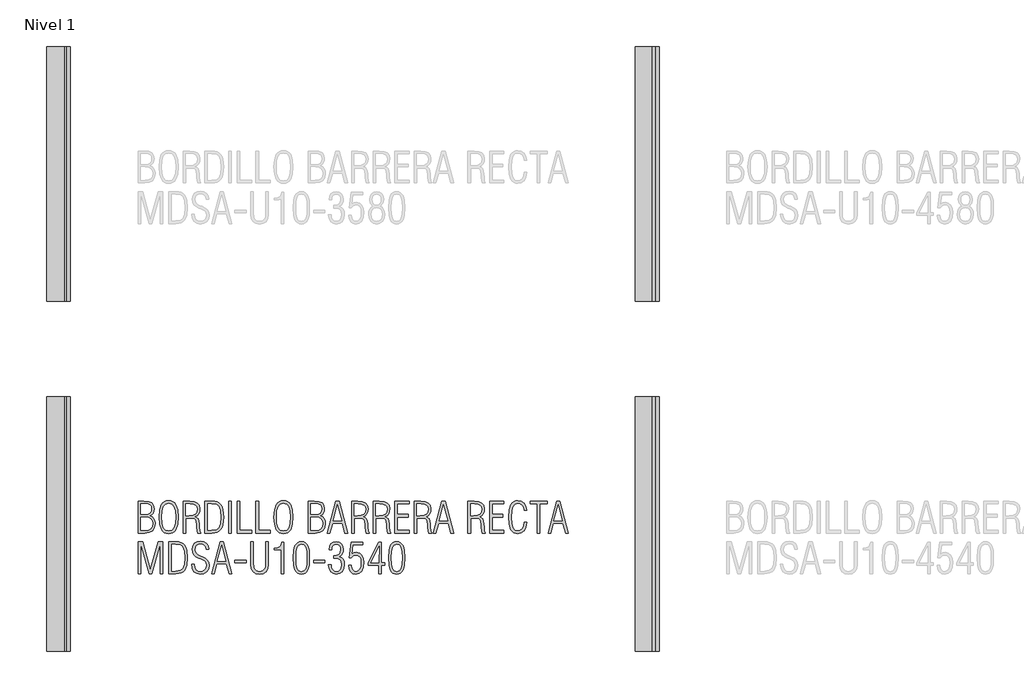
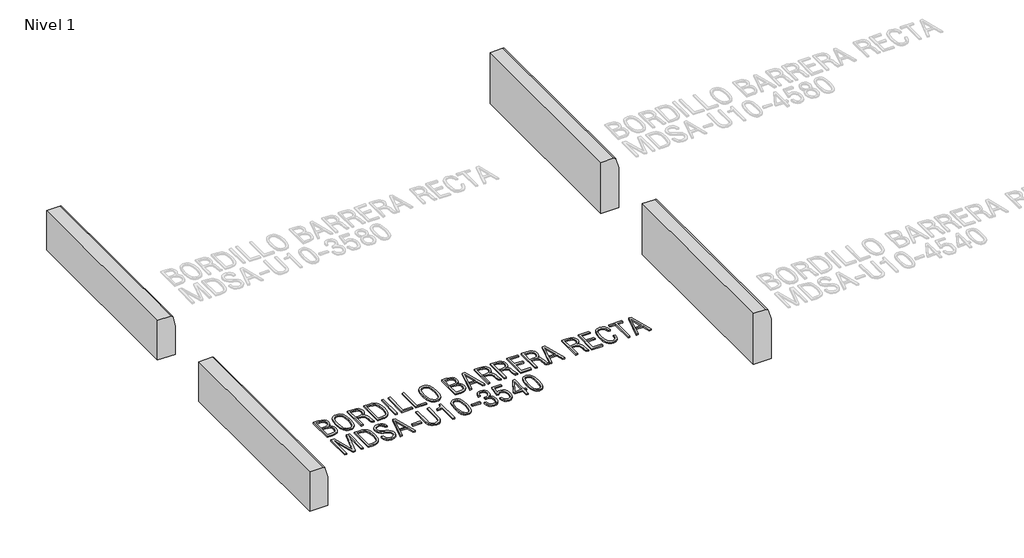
# One storey, part 1 of 4: 4 railings, 1 proxy.
"""IFC4 building model written with IfcOpenShell, lengths in millimetres."""

from ifc_helpers import new_model, si_unit, origin, origin_with_axes, place, context, project, spatial, polyline, outline, extrude, transform, mapped, element, save
from components import railing_0f209ece, railing_1f8f8446, railing_46bd7357, railing_d3ae6c80

model = new_model("IFC4")

# Units and contexts
model_context = context("Model", 3, world=origin())
ifc_project = project(units=[si_unit("LENGTHUNIT", "METRE", prefix="MILLI")], contexts=[model_context])

# Site, building, storey
site = spatial("IfcSite", under=ifc_project)
building = spatial("IfcBuilding", under=site)
storey = spatial("IfcBuildingStorey", under=building, Name="Nivel 1", Elevation=0.0)

# Proxy
placement = place(None, origin())
element("IfcBuildingElementProxy", 1, Name="200mm", ObjectType="200mm", at=placement, inside=storey, context=model_context, shape_type="SweptSolid", body=[
    extrude(outline(polyline([(-3968.5349981, 2081.6050587), (-3968.5349981, 2282.0976811), (-3932.7110895, 2282.0976811), (-3902.9946773, 2279.3249915), (-3883.1689986, 2271.0069224), (-3872.0087648, 2256.4234589), (-3868.2886868, 2234.8545859), (-3869.8739832, 2219.5826869), (-3874.6298723, 2207.3171667), (-3882.6447771, 2197.8559158), (-3894.0071205, 2190.9968247), (-3879.5941869, 2182.7924423), (-3869.6023986, 2172.1248503), (-3863.7664868, 2158.5266706), (-3861.8211829, 2141.530525), (-3865.7307385, 2114.9025985), (-3877.4594053, 2096.2579973), (-3897.360875, 2085.2682933), (-3925.7888391, 2081.6050587), (-3968.5349981, 2081.6050587)]), holes=[polyline([(-3952.3662382, 2097.7738185), (-3927.9615162, 2097.7738185), (-3904.9778767, 2100.3317669), (-3889.5859752, 2108.0056119), (-3880.8889509, 2121.5153687), (-3877.9899427, 2141.5810523), (-3880.9394782, 2159.5624818), (-3889.7880847, 2172.0743229), (-3904.8894538, 2179.4071082), (-3926.5972771, 2181.8513699), (-3952.3662382, 2181.8513699), (-3952.3662382, 2097.7738185)]), polyline([(-3952.3662382, 2198.0201298), (-3927.4057151, 2198.0201298), (-3907.9842555, 2200.1549114), (-3894.68924, 2206.5592561), (-3887.015395, 2217.6247511), (-3884.4574467, 2233.7429836), (-3887.015395, 2248.7243502), (-3894.68924, 2258.6024519), (-3908.6284795, 2264.0973039), (-3929.9826112, 2265.9289213), (-3952.3662382, 2265.9289213), (-3952.3662382, 2198.0201298)])]), origin_with_axes(), (0.0, 0.0, 1.0), 10.0),
    extrude(outline(polyline([(-3835.9511671, 2182.0534794), (-3832.3321438, 2228.2797113), (-3821.4750742, 2260.3456464), (-3813.2154275, 2271.2769281), (-3802.91258, 2279.0849864), (-3790.5665318, 2283.7698214), (-3776.1772829, 2285.3314331), (-3761.7438225, 2283.7745584), (-3749.3661947, 2279.1039342), (-3739.0443995, 2271.3195605), (-3730.7784368, 2260.4214374), (-3719.9213672, 2228.3744501), (-3716.302344, 2182.0534794), (-3719.9403149, 2135.6819813), (-3730.8542278, 2103.4834119), (-3739.1438752, 2092.4968658), (-3749.4609335, 2084.649333), (-3761.8054028, 2079.9408133), (-3776.1772829, 2078.3713067), (-3790.5049515, 2079.9408133), (-3802.8178411, 2084.649333), (-3813.1159517, 2092.4968658), (-3821.3992832, 2103.4834119), (-3832.3131961, 2135.6819813), (-3835.9511671, 2182.0534794)]), holes=[polyline([(-3819.7824072, 2181.8513699), (-3817.1107722, 2143.0842417), (-3809.0958674, 2115.913146), (-3795.4976877, 2099.8833364), (-3776.0762281, 2094.5400666), (-3756.6358207, 2099.8517568), (-3743.0818525, 2115.7868276), (-3735.123791, 2142.9263437), (-3732.4711038, 2181.8513699), (-3735.123791, 2220.7763961), (-3743.0818525, 2247.9159122), (-3756.6358207, 2263.850983), (-3776.0762281, 2269.1626732), (-3795.4976877, 2263.8194034), (-3809.0958674, 2247.7895938), (-3817.1107722, 2220.6184981), (-3819.7824072, 2181.8513699)])]), origin_with_axes(), (0.0, 0.0, 1.0), 10.0),
    extrude(outline(polyline([(-3683.9648242, 2081.6050587), (-3683.9648242, 2282.0976811), (-3644.9071636, 2282.0976811), (-3616.0434009, 2279.0913024), (-3596.0471924, 2270.072166), (-3584.3753688, 2254.6992123), (-3580.484761, 2232.6313814), (-3582.3542738, 2215.4141785), (-3587.9628124, 2201.7591555), (-3597.449327, 2191.4263074), (-3610.9527679, 2184.1756291), (-3599.1609418, 2178.7881478), (-3591.1713007, 2170.609029), (-3586.2638294, 2158.0466605), (-3583.7185129, 2139.50943), (-3582.9606023, 2121.7237941), (-3580.1689649, 2095.7527235), (-3574.017257, 2081.6050587), (-3592.6113309, 2081.6050587), (-3596.880894, 2093.7442604), (-3599.1798896, 2118.5405695), (-3599.8872728, 2131.8797964), (-3602.7610173, 2154.212896), (-3608.6537723, 2167.1479039), (-3619.0560956, 2173.3248754), (-3635.4585446, 2175.3838659), (-3667.7960643, 2175.3838659), (-3667.7960643, 2081.6050587), (-3683.9648242, 2081.6050587)]), holes=[polyline([(-3667.7960643, 2191.5526258), (-3650.1620106, 2191.5526258), (-3625.3151741, 2193.8074099), (-3608.8811455, 2200.5717622), (-3599.710427, 2212.5025385), (-3596.6535209, 2230.2565948), (-3599.5588449, 2246.3685114), (-3608.274817, 2257.4150586), (-3623.3698702, 2263.8004556), (-3645.4124374, 2265.9289213), (-3667.7960643, 2265.9289213), (-3667.7960643, 2191.5526258)])]), origin_with_axes(), (0.0, 0.0, 1.0), 10.0),
    extrude(outline(polyline([(-3548.1472412, 2081.6050587), (-3548.1472412, 2282.0976811), (-3506.3611024, 2282.0976811), (-3487.3201771, 2280.7018624), (-3471.326684, 2276.5144063), (-3458.3806233, 2269.5353126), (-3448.4819948, 2259.7645816), (-3441.1539465, 2246.5295674), (-3435.9196263, 2229.1576244), (-3431.7321701, 2182.002952), (-3435.938574, 2134.8735433), (-3441.1965789, 2117.4573889), (-3448.5577858, 2104.1402677), (-3458.480099, 2094.2811138), (-3471.4214229, 2087.2388609), (-3487.3817573, 2083.0135092), (-3506.3611024, 2081.6050587), (-3548.1472412, 2081.6050587)]), holes=[polyline([(-3531.9784813, 2097.7738185), (-3507.4727046, 2097.7738185), (-3478.6468374, 2102.100225), (-3468.2697779, 2107.508233), (-3460.583301, 2115.0794443), (-3451.0715227, 2140.3620794), (-3447.90093, 2181.598733), (-3451.0715227, 2223.1511827), (-3460.583301, 2248.5727681), (-3468.2697779, 2256.1660851), (-3478.6468374, 2261.589883), (-3507.4727046, 2265.9289213), (-3531.9784813, 2265.9289213), (-3531.9784813, 2097.7738185)])]), origin_with_axes(), (0.0, 0.0, 1.0), 10.0),
    extrude(outline(polyline([(-3399.3946503, 2081.6050587), (-3399.3946503, 2282.0976811), (-3383.2258905, 2282.0976811), (-3383.2258905, 2081.6050587), (-3399.3946503, 2081.6050587)])), origin_with_axes(), (0.0, 0.0, 1.0), 10.0),
    extrude(outline(polyline([(-3344.4208667, 2081.6050587), (-3344.4208667, 2282.0976811), (-3328.2521069, 2282.0976811), (-3328.2521069, 2097.7738185), (-3253.8758114, 2097.7738185), (-3253.8758114, 2081.6050587), (-3344.4208667, 2081.6050587)])), origin_with_axes(), (0.0, 0.0, 1.0), 10.0),
    extrude(outline(polyline([(-3228.0057956, 2081.6050587), (-3228.0057956, 2282.0976811), (-3211.8370357, 2282.0976811), (-3211.8370357, 2097.7738185), (-3137.4607403, 2097.7738185), (-3137.4607403, 2081.6050587), (-3228.0057956, 2081.6050587)])), origin_with_axes(), (0.0, 0.0, 1.0), 10.0),
    extrude(outline(polyline([(-3114.8244765, 2182.0534794), (-3111.2054533, 2228.2797113), (-3100.3483836, 2260.3456464), (-3092.0887369, 2271.2769281), (-3081.7858894, 2279.0849864), (-3069.4398412, 2283.7698214), (-3055.0505923, 2285.3314331), (-3040.6171319, 2283.7745584), (-3028.2395041, 2279.1039342), (-3017.9177089, 2271.3195605), (-3009.6517462, 2260.4214374), (-2998.7946766, 2228.3744501), (-2995.1756534, 2182.0534794), (-2998.8136243, 2135.6819813), (-3009.7275373, 2103.4834119), (-3018.0171847, 2092.4968658), (-3028.334243, 2084.649333), (-3040.6787122, 2079.9408133), (-3055.0505923, 2078.3713067), (-3069.378261, 2079.9408133), (-3081.6911506, 2084.649333), (-3091.9892611, 2092.4968658), (-3100.2725926, 2103.4834119), (-3111.1865055, 2135.6819813), (-3114.8244765, 2182.0534794)]), holes=[polyline([(-3098.6557166, 2181.8513699), (-3095.9840817, 2143.0842417), (-3087.9691769, 2115.913146), (-3074.3709972, 2099.8833364), (-3054.9495375, 2094.5400666), (-3035.5091302, 2099.8517568), (-3021.9551619, 2115.7868276), (-3013.9971004, 2142.9263437), (-3011.3444133, 2181.8513699), (-3013.9971004, 2220.7763961), (-3021.9551619, 2247.9159122), (-3035.5091302, 2263.850983), (-3054.9495375, 2269.1626732), (-3074.3709972, 2263.8194034), (-3087.9691769, 2247.7895938), (-3095.9840817, 2220.6184981), (-3098.6557166, 2181.8513699)])]), origin_with_axes(), (0.0, 0.0, 1.0), 10.0),
    extrude(outline(polyline([(-2898.1630941, 2081.6050587), (-2898.1630941, 2282.0976811), (-2862.3391855, 2282.0976811), (-2832.6227733, 2279.3249915), (-2812.7970947, 2271.0069224), (-2801.6368608, 2256.4234589), (-2797.9167829, 2234.8545859), (-2799.5020792, 2219.5826869), (-2804.2579684, 2207.3171667), (-2812.2728732, 2197.8559158), (-2823.6352165, 2190.9968247), (-2809.2222829, 2182.7924423), (-2799.2304946, 2172.1248503), (-2793.3945828, 2158.5266706), (-2791.4492789, 2141.530525), (-2795.3588345, 2114.9025985), (-2807.0875013, 2096.2579973), (-2826.988971, 2085.2682933), (-2855.4169352, 2081.6050587), (-2898.1630941, 2081.6050587)]), holes=[polyline([(-2881.9943342, 2198.0201298), (-2857.0338112, 2198.0201298), (-2837.6123515, 2200.1549114), (-2824.3173361, 2206.5592561), (-2816.6434911, 2217.6247511), (-2814.0855427, 2233.7429836), (-2816.6434911, 2248.7243502), (-2824.3173361, 2258.6024519), (-2838.2565756, 2264.0973039), (-2859.6107073, 2265.9289213), (-2881.9943342, 2265.9289213), (-2881.9943342, 2198.0201298)]), polyline([(-2881.9943342, 2097.7738185), (-2857.5896123, 2097.7738185), (-2834.6059728, 2100.3317669), (-2819.2140713, 2108.0056119), (-2810.5170469, 2121.5153687), (-2807.6180388, 2141.5810523), (-2810.5675743, 2159.5624818), (-2819.4161808, 2172.0743229), (-2834.5175498, 2179.4071082), (-2856.2253732, 2181.8513699), (-2881.9943342, 2181.8513699), (-2881.9943342, 2097.7738185)])]), origin_with_axes(), (0.0, 0.0, 1.0), 10.0),
    extrude(outline(polyline([(-2778.514271, 2081.6050587), (-2724.9552539, 2282.0976811), (-2705.4011599, 2282.0976811), (-2652.3979439, 2081.6050587), (-2669.2235597, 2081.6050587), (-2685.9986481, 2143.0463462), (-2745.9241144, 2143.0463462), (-2763.002367, 2081.6050587), (-2778.514271, 2081.6050587)]), holes=[polyline([(-2743.0945814, 2159.2151061), (-2689.3839822, 2159.2151061), (-2716.1129633, 2259.9161637), (-2743.0945814, 2159.2151061)])]), origin_with_axes(), (0.0, 0.0, 1.0), 10.0),
    extrude(outline(polyline([(-2626.5279281, 2081.6050587), (-2626.5279281, 2282.0976811), (-2587.4702676, 2282.0976811), (-2558.6065048, 2279.0913024), (-2538.6102963, 2270.072166), (-2526.9384728, 2254.6992123), (-2523.0478649, 2232.6313814), (-2524.9173778, 2215.4141785), (-2530.5259164, 2201.7591555), (-2540.0124309, 2191.4263074), (-2553.5158718, 2184.1756291), (-2541.7240458, 2178.7881478), (-2533.7344047, 2170.609029), (-2528.8269334, 2158.0466605), (-2526.2816169, 2139.50943), (-2525.5237063, 2121.7237941), (-2522.7320688, 2095.7527235), (-2516.580361, 2081.6050587), (-2535.1744348, 2081.6050587), (-2539.443998, 2093.7442604), (-2541.7429935, 2118.5405695), (-2542.4503768, 2131.8797964), (-2545.3241212, 2154.212896), (-2551.2168763, 2167.1479039), (-2561.6191995, 2173.3248754), (-2578.0216485, 2175.3838659), (-2610.3591683, 2175.3838659), (-2610.3591683, 2081.6050587), (-2626.5279281, 2081.6050587)]), holes=[polyline([(-2610.3591683, 2191.5526258), (-2592.7251145, 2191.5526258), (-2567.8782781, 2193.8074099), (-2551.4442495, 2200.5717622), (-2542.273531, 2212.5025385), (-2539.2166248, 2230.2565948), (-2542.1219488, 2246.3685114), (-2550.837921, 2257.4150586), (-2565.9329741, 2263.8004556), (-2587.9755413, 2265.9289213), (-2610.3591683, 2265.9289213), (-2610.3591683, 2191.5526258)])]), origin_with_axes(), (0.0, 0.0, 1.0), 10.0),
    extrude(outline(polyline([(-2490.7103452, 2081.6050587), (-2490.7103452, 2282.0976811), (-2451.6526846, 2282.0976811), (-2422.7889218, 2279.0913024), (-2402.7927133, 2270.072166), (-2391.1208898, 2254.6992123), (-2387.2302819, 2232.6313814), (-2389.0997948, 2215.4141785), (-2394.7083334, 2201.7591555), (-2404.194848, 2191.4263074), (-2417.6982888, 2184.1756291), (-2405.9064628, 2178.7881478), (-2397.9168217, 2170.609029), (-2393.0093504, 2158.0466605), (-2390.4640339, 2139.50943), (-2389.7061233, 2121.7237941), (-2386.9144859, 2095.7527235), (-2380.762778, 2081.6050587), (-2399.3568519, 2081.6050587), (-2403.626415, 2093.7442604), (-2405.9254106, 2118.5405695), (-2406.6327938, 2131.8797964), (-2409.5065382, 2154.212896), (-2415.3992933, 2167.1479039), (-2425.8016165, 2173.3248754), (-2442.2040655, 2175.3838659), (-2474.5415853, 2175.3838659), (-2474.5415853, 2081.6050587), (-2490.7103452, 2081.6050587)]), holes=[polyline([(-2474.5415853, 2191.5526258), (-2456.9075315, 2191.5526258), (-2432.0606951, 2193.8074099), (-2415.6266665, 2200.5717622), (-2406.455948, 2212.5025385), (-2403.3990418, 2230.2565948), (-2406.3043659, 2246.3685114), (-2415.020338, 2257.4150586), (-2430.1153912, 2263.8004556), (-2452.1579583, 2265.9289213), (-2474.5415853, 2265.9289213), (-2474.5415853, 2191.5526258)])]), origin_with_axes(), (0.0, 0.0, 1.0), 10.0),
    extrude(outline(polyline([(-2354.8927622, 2081.6050587), (-2354.8927622, 2282.0976811), (-2264.3477069, 2282.0976811), (-2264.3477069, 2265.9289213), (-2338.7240023, 2265.9289213), (-2338.7240023, 2198.0201298), (-2270.8152108, 2198.0201298), (-2270.8152108, 2181.8513699), (-2338.7240023, 2181.8513699), (-2338.7240023, 2097.7738185), (-2264.3477069, 2097.7738185), (-2264.3477069, 2081.6050587), (-2354.8927622, 2081.6050587)])), origin_with_axes(), (0.0, 0.0, 1.0), 10.0),
    extrude(outline(polyline([(-2232.0101871, 2081.6050587), (-2232.0101871, 2282.0976811), (-2192.9525265, 2282.0976811), (-2164.0887638, 2279.0913024), (-2144.0925553, 2270.072166), (-2132.4207317, 2254.6992123), (-2128.5301239, 2232.6313814), (-2130.3996367, 2215.4141785), (-2136.0081753, 2201.7591555), (-2145.4946899, 2191.4263074), (-2158.9981308, 2184.1756291), (-2147.2063047, 2178.7881478), (-2139.2166636, 2170.609029), (-2134.3091924, 2158.0466605), (-2131.7638759, 2139.50943), (-2131.0059652, 2121.7237941), (-2128.2143278, 2095.7527235), (-2122.0626199, 2081.6050587), (-2140.6566938, 2081.6050587), (-2144.926257, 2093.7442604), (-2147.2252525, 2118.5405695), (-2147.9326357, 2131.8797964), (-2150.8063802, 2154.212896), (-2156.6991352, 2167.1479039), (-2167.1014585, 2173.3248754), (-2183.5039075, 2175.3838659), (-2215.8414272, 2175.3838659), (-2215.8414272, 2081.6050587), (-2232.0101871, 2081.6050587)]), holes=[polyline([(-2215.8414272, 2191.5526258), (-2198.2073735, 2191.5526258), (-2173.360537, 2193.8074099), (-2156.9265084, 2200.5717622), (-2147.7557899, 2212.5025385), (-2144.6988838, 2230.2565948), (-2147.6042078, 2246.3685114), (-2156.3201799, 2257.4150586), (-2171.4152331, 2263.8004556), (-2193.4578003, 2265.9289213), (-2215.8414272, 2265.9289213), (-2215.8414272, 2191.5526258)])]), origin_with_axes(), (0.0, 0.0, 1.0), 10.0),
    extrude(outline(polyline([(-2112.361364, 2081.6050587), (-2058.8023469, 2282.0976811), (-2039.2482529, 2282.0976811), (-1986.245037, 2081.6050587), (-2003.0706527, 2081.6050587), (-2019.8457411, 2143.0463462), (-2079.7712074, 2143.0463462), (-2096.84946, 2081.6050587), (-2112.361364, 2081.6050587)]), holes=[polyline([(-2076.9416744, 2159.2151061), (-2023.2310752, 2159.2151061), (-2049.9600564, 2259.9161637), (-2076.9416744, 2159.2151061)])]), origin_with_axes(), (0.0, 0.0, 1.0), 10.0),
    extrude(outline(polyline([(-1895.6999816, 2081.6050587), (-1895.6999816, 2282.0976811), (-1856.6423211, 2282.0976811), (-1827.7785583, 2279.0913024), (-1807.7823498, 2270.072166), (-1796.1105263, 2254.6992123), (-1792.2199184, 2232.6313814), (-1794.0894313, 2215.4141785), (-1799.6979699, 2201.7591555), (-1809.1844844, 2191.4263074), (-1822.6879253, 2184.1756291), (-1810.8960993, 2178.7881478), (-1802.9064581, 2170.609029), (-1797.9989869, 2158.0466605), (-1795.4536704, 2139.50943), (-1794.6957598, 2121.7237941), (-1791.9041223, 2095.7527235), (-1785.7524145, 2081.6050587), (-1804.3464883, 2081.6050587), (-1808.6160515, 2093.7442604), (-1810.915047, 2118.5405695), (-1811.6224303, 2131.8797964), (-1814.4961747, 2154.212896), (-1820.3889298, 2167.1479039), (-1830.791253, 2173.3248754), (-1847.193702, 2175.3838659), (-1879.5312218, 2175.3838659), (-1879.5312218, 2081.6050587), (-1895.6999816, 2081.6050587)]), holes=[polyline([(-1879.5312218, 2191.5526258), (-1861.897168, 2191.5526258), (-1837.0503315, 2193.8074099), (-1820.616303, 2200.5717622), (-1811.4455845, 2212.5025385), (-1808.3886783, 2230.2565948), (-1811.2940023, 2246.3685114), (-1820.0099745, 2257.4150586), (-1835.1050276, 2263.8004556), (-1857.1475948, 2265.9289213), (-1879.5312218, 2265.9289213), (-1879.5312218, 2191.5526258)])]), origin_with_axes(), (0.0, 0.0, 1.0), 10.0),
    extrude(outline(polyline([(-1759.8823987, 2081.6050587), (-1759.8823987, 2282.0976811), (-1669.3373433, 2282.0976811), (-1669.3373433, 2265.9289213), (-1743.7136388, 2265.9289213), (-1743.7136388, 2198.0201298), (-1675.8048473, 2198.0201298), (-1675.8048473, 2181.8513699), (-1743.7136388, 2181.8513699), (-1743.7136388, 2097.7738185), (-1669.3373433, 2097.7738185), (-1669.3373433, 2081.6050587), (-1759.8823987, 2081.6050587)])), origin_with_axes(), (0.0, 0.0, 1.0), 10.0),
    extrude(outline(polyline([(-1525.7385447, 2149.5138501), (-1531.0376031, 2118.6732039), (-1542.2862599, 2096.3843157), (-1559.2824055, 2082.8745589), (-1581.8239305, 2078.3713067), (-1595.8831725, 2079.9408133), (-1607.9465832, 2084.649333), (-1618.0141626, 2092.4968658), (-1626.0859107, 2103.4834119), (-1636.6966593, 2135.6819813), (-1640.2335756, 2182.0534794), (-1636.6966593, 2228.2797113), (-1626.0859107, 2260.3456464), (-1618.0141626, 2271.2769281), (-1607.9465832, 2279.0849864), (-1595.8831725, 2283.7698214), (-1581.8239305, 2285.3314331), (-1559.3960921, 2281.2639795), (-1542.2357325, 2269.0616185), (-1531.1765534, 2249.633843), (-1527.0522564, 2223.8901456), (-1543.2210163, 2223.7385635), (-1546.5431912, 2242.9326499), (-1554.3875661, 2257.2634765), (-1566.3246583, 2266.1878741), (-1581.9249852, 2269.1626732), (-1600.6453775, 2263.850983), (-1613.7572313, 2247.9159122), (-1621.4879196, 2220.7763961), (-1624.0648157, 2181.8513699), (-1621.4942355, 2142.9263437), (-1613.7824949, 2115.7868276), (-1600.689589, 2099.8517568), (-1581.9755126, 2094.5400666), (-1566.2046558, 2098.1211942), (-1553.9580834, 2108.8645773), (-1545.665278, 2126.1891508), (-1541.7557224, 2149.5138501), (-1525.7385447, 2149.5138501)])), origin_with_axes(), (0.0, 0.0, 1.0), 10.0),
    extrude(outline(polyline([(-1459.1434649, 2081.6050587), (-1459.1434649, 2265.9289213), (-1504.4159926, 2265.9289213), (-1504.4159926, 2282.0976811), (-1397.7021774, 2282.0976811), (-1397.7021774, 2265.9289213), (-1442.974705, 2265.9289213), (-1442.974705, 2081.6050587), (-1459.1434649, 2081.6050587)])), origin_with_axes(), (0.0, 0.0, 1.0), 10.0),
    extrude(outline(polyline([(-1391.2346734, 2081.6050587), (-1337.6756563, 2282.0976811), (-1318.1215624, 2282.0976811), (-1265.1183464, 2081.6050587), (-1281.9439621, 2081.6050587), (-1298.7190505, 2143.0463462), (-1358.6445168, 2143.0463462), (-1375.7227694, 2081.6050587), (-1391.2346734, 2081.6050587)]), holes=[polyline([(-1355.8149838, 2159.2151061), (-1302.1043846, 2159.2151061), (-1328.8333658, 2259.9161637), (-1355.8149838, 2159.2151061)])]), origin_with_axes(), (0.0, 0.0, 1.0), 10.0),
    extrude(outline(polyline([(-3968.5349981, 1826.6312751), (-3968.5349981, 2027.1238976), (-3940.4923051, 2027.1238976), (-3890.9249506, 1850.0254495), (-3841.1049593, 2027.1238976), (-3813.3149032, 2027.1238976), (-3813.3149032, 1826.6312751), (-3829.4836631, 1826.6312751), (-3829.4836631, 2012.8246505), (-3881.6784411, 1826.6312751), (-3899.7672412, 1826.6312751), (-3952.3662382, 2012.8246505), (-3952.3662382, 1826.6312751), (-3968.5349981, 1826.6312751)])), origin_with_axes(), (0.0, 0.0, 1.0), 10.0),
    extrude(outline(polyline([(-3774.5098795, 1826.6312751), (-3774.5098795, 2027.1238976), (-3732.7237407, 2027.1238976), (-3713.6828154, 2025.7280788), (-3697.6893223, 2021.5406227), (-3684.7432616, 2014.561529), (-3674.8446331, 2004.790798), (-3667.5165848, 1991.5557838), (-3662.2822646, 1974.1838408), (-3658.0948084, 1927.0291684), (-3662.3012123, 1879.8997598), (-3667.5592172, 1862.4836053), (-3674.9204241, 1849.1664841), (-3684.8427373, 1839.3073302), (-3697.7840612, 1832.2650773), (-3713.7443956, 1828.0397256), (-3732.7237407, 1826.6312751), (-3774.5098795, 1826.6312751)]), holes=[polyline([(-3758.3411196, 1842.8000349), (-3733.8353429, 1842.8000349), (-3705.0094757, 1847.1264414), (-3694.6324162, 1852.5344495), (-3686.9459393, 1860.1056608), (-3677.434161, 1885.3882958), (-3674.2635683, 1926.6249494), (-3677.434161, 1968.1773991), (-3686.9459393, 1993.5989845), (-3694.6324162, 2001.1923015), (-3705.0094757, 2006.6160994), (-3733.8353429, 2010.9551377), (-3758.3411196, 2010.9551377), (-3758.3411196, 1842.8000349)])]), origin_with_axes(), (0.0, 0.0, 1.0), 10.0),
    extrude(outline(polyline([(-3632.2247926, 1884.8388106), (-3616.0560327, 1884.8388106), (-3613.0370221, 1865.7584108), (-3605.4958114, 1851.4654797), (-3593.9250426, 1842.5410821), (-3578.8173576, 1839.566283), (-3561.9917419, 1842.2379179), (-3549.2083161, 1850.2528227), (-3541.136568, 1862.916246), (-3538.4459853, 1879.5334363), (-3541.376573, 1895.2474498), (-3550.9767742, 1907.272965), (-3574.5730581, 1918.9447885), (-3586.1943543, 1923.4922522), (-3606.0705603, 1933.9072073), (-3619.2139936, 1945.9516702), (-3626.5467789, 1960.6614522), (-3628.9910406, 1979.0723643), (-3625.2772786, 1999.4412122), (-3614.1359925, 2015.8815567), (-3597.2219538, 2026.7386263), (-3576.1899341, 2030.3576495), (-3555.1389667, 2026.9975791), (-3539.0775775, 2016.9173679), (-3528.9026274, 2000.9380857), (-3525.5109774, 1979.8808023), (-3541.6797373, 1978.6176179), (-3544.6798001, 1993.7379348), (-3551.557839, 2004.9423801), (-3561.9727941, 2011.8772623), (-3575.5836056, 2014.1888897), (-3590.3439149, 2011.6183095), (-3602.2873231, 2003.9065689), (-3610.1885413, 1992.2410613), (-3612.8222807, 1977.8091799), (-3610.6496036, 1964.469953), (-3604.232627, 1953.3539306), (-3593.0534454, 1945.0169138), (-3573.3604012, 1936.1746232), (-3566.8423698, 1933.5471998), (-3546.1135144, 1923.2964586), (-3532.4332277, 1911.5425281), (-3524.816226, 1897.1864378), (-3522.2772254, 1879.1292173), (-3525.9720397, 1855.962416), (-3537.0564825, 1838.3030986), (-3554.5579019, 1827.123917), (-3577.5036459, 1823.3975231), (-3600.2914918, 1827.3765538), (-3617.3192171, 1839.3136461), (-3628.1194434, 1858.6529987), (-3632.2247926, 1884.8388106)])), origin_with_axes(), (0.0, 0.0, 1.0), 10.0),
    extrude(outline(polyline([(-3506.1084655, 1826.6312751), (-3452.5494484, 2027.1238976), (-3432.9953545, 2027.1238976), (-3379.9921385, 1826.6312751), (-3396.8177542, 1826.6312751), (-3413.5928426, 1888.0725626), (-3473.5183089, 1888.0725626), (-3490.5965615, 1826.6312751), (-3506.1084655, 1826.6312751)]), holes=[polyline([(-3470.6887759, 1904.2413225), (-3416.9781767, 1904.2413225), (-3443.7071579, 2004.9423801), (-3470.6887759, 1904.2413225)])]), origin_with_axes(), (0.0, 0.0, 1.0), 10.0),
    extrude(outline(polyline([(-3360.5896266, 1894.5400666), (-3360.5896266, 1910.7088264), (-3289.4470832, 1910.7088264), (-3289.4470832, 1894.5400666), (-3360.5896266, 1894.5400666)])), origin_with_axes(), (0.0, 0.0, 1.0), 10.0),
    extrude(outline(polyline([(-3150.3957482, 2027.1238976), (-3150.3957482, 1880.847148), (-3153.9074007, 1856.2024211), (-3164.4423584, 1838.1515165), (-3181.6595613, 1827.0860214), (-3205.2179497, 1823.3975231), (-3229.0037113, 1827.0733896), (-3246.2967052, 1838.1009891), (-3256.8316628, 1856.1392618), (-3260.3433154, 1880.847148), (-3260.3433154, 2027.1238976), (-3244.1745555, 2027.1238976), (-3244.1745555, 1893.2263548), (-3242.9113711, 1868.8721602), (-3238.6670717, 1856.8971725), (-3224.9741531, 1844.0632193), (-3205.2179497, 1839.566283), (-3185.4870099, 1844.1390104), (-3171.7688277, 1856.8971725), (-3167.7771651, 1867.4573938), (-3166.5645081, 1884.1314274), (-3166.5645081, 1893.2263548), (-3166.5645081, 2027.1238976), (-3150.3957482, 2027.1238976)])), origin_with_axes(), (0.0, 0.0, 1.0), 10.0),
    extrude(outline(polyline([(-3069.5519488, 1826.6312751), (-3069.5519488, 1977.7081252), (-3084.9880618, 1976.0407218), (-3100.8283937, 1975.3838659), (-3107.3211613, 1975.4343933), (-3111.5907245, 1975.7375576), (-3111.5907245, 1985.0851219), (-3091.9671554, 1987.9714981), (-3078.4700304, 1994.8116415), (-3070.1140659, 2006.4897809), (-3065.9139778, 2023.8901456), (-3053.3831889, 2023.8901456), (-3053.3831889, 1826.6312751), (-3069.5519488, 1826.6312751)])), origin_with_axes(), (0.0, 0.0, 1.0), 10.0),
    extrude(outline(polyline([(-2991.9419014, 1925.4628198), (-2989.6934332, 1973.2364525), (-2982.6953918, 2000.3949164), (-2975.0594424, 2012.0414762), (-2965.6929303, 2020.4037567), (-2954.6084875, 2025.4438624), (-2941.8187458, 2027.1238976), (-2929.0290041, 2025.4312305), (-2917.9445613, 2020.3532294), (-2908.6412084, 2011.978317), (-2901.1947366, 2000.3949164), (-2894.0198494, 1972.2511687), (-2891.6955902, 1925.4628198), (-2893.9440583, 1877.8155056), (-2901.1947366, 1850.1265043), (-2908.6412084, 1838.5431036), (-2917.9445613, 1830.1681913), (-2929.0290041, 1825.0901901), (-2941.8187458, 1823.3975231), (-2954.6084875, 1825.0901901), (-2965.6929303, 1830.1681913), (-2975.0594424, 1838.5431036), (-2982.6953918, 1850.1265043), (-2989.6934332, 1877.3607592), (-2991.9419014, 1925.4628198)]), holes=[polyline([(-2975.7731415, 1925.3112377), (-2973.8341535, 1884.4345916), (-2968.0171895, 1858.311939), (-2957.551707, 1844.252697), (-2941.6671636, 1839.566283), (-2925.9468342, 1844.2211174), (-2915.5697747, 1858.1856205), (-2909.7907062, 1884.2766936), (-2907.86435, 1925.3112377), (-2909.7907062, 1966.2699908), (-2915.5697747, 1992.3358001), (-2925.9468342, 2006.3003033), (-2941.6671636, 2010.9551377), (-2957.551707, 2006.2687237), (-2968.0171895, 1992.2094817), (-2973.8341535, 1966.1120927), (-2975.7731415, 1925.3112377)])]), origin_with_axes(), (0.0, 0.0, 1.0), 10.0),
    extrude(outline(polyline([(-2865.8255743, 1894.5400666), (-2865.8255743, 1910.7088264), (-2794.6830309, 1910.7088264), (-2794.6830309, 1894.5400666), (-2865.8255743, 1894.5400666)])), origin_with_axes(), (0.0, 0.0, 1.0), 10.0),
    extrude(outline(polyline([(-2772.046767, 1881.6050587), (-2755.8780072, 1881.6050587), (-2753.383218, 1864.0025845), (-2746.7072887, 1850.7075691), (-2736.3302291, 1842.3516045), (-2722.7320494, 1839.566283), (-2708.5338572, 1842.4273956), (-2697.4683621, 1851.0107333), (-2690.3440023, 1864.3941717), (-2687.9692157, 1881.655586), (-2690.5903232, 1900.3886102), (-2698.4536459, 1913.4373047), (-2711.8749798, 1921.0922019), (-2731.170121, 1923.6438343), (-2736.4249679, 1923.5680433), (-2739.7092473, 1923.4922522), (-2739.7092473, 1939.8125942), (-2718.8603893, 1942.1621171), (-2705.1232594, 1949.2106859), (-2697.1083546, 1961.2993603), (-2694.4367196, 1978.7692), (-2696.3820236, 1992.3294842), (-2702.2179353, 2002.4918024), (-2711.5023404, 2008.8393039), (-2723.7931243, 2010.9551377), (-2735.9575897, 2008.668774), (-2745.065149, 2001.8096829), (-2750.7494786, 1990.8199789), (-2752.6442552, 1976.1417766), (-2768.8130151, 1975.3838659), (-2765.4087332, 1997.2622192), (-2756.5095994, 2013.5825612), (-2742.6461509, 2023.7385635), (-2724.3489254, 2027.1238976), (-2705.5148465, 2023.858566), (-2690.849276, 2014.0625712), (-2681.4132888, 1998.8601474), (-2678.2679598, 1979.3755285), (-2679.947995, 1964.2488958), (-2684.9881006, 1951.4086267), (-2693.2872219, 1941.0947263), (-2704.7443041, 1933.5471998), (-2690.0787336, 1926.1196757), (-2679.8343084, 1915.2562901), (-2673.8089189, 1900.7296699), (-2671.8004558, 1882.3124419), (-2675.255265, 1857.8319289), (-2685.6196928, 1839.162064), (-2701.9968781, 1827.3386583), (-2723.48996, 1823.3975231), (-2743.6756462, 1827.2565513), (-2758.960177, 1838.833636), (-2768.6488011, 1857.2445482), (-2772.046767, 1881.6050587)])), origin_with_axes(), (0.0, 0.0, 1.0), 10.0),
    extrude(outline(polyline([(-2645.93044, 1878.3713067), (-2629.7616801, 1878.3713067), (-2626.54056, 1861.4256884), (-2620.5151706, 1849.2928026), (-2611.67288, 1841.9979129), (-2600.0010565, 1839.566283), (-2585.3102223, 1843.2042539), (-2574.2826228, 1854.1181669), (-2567.3856362, 1871.6764295), (-2565.0866406, 1895.2474498), (-2567.2845814, 1915.3068175), (-2573.8784038, 1930.4145025), (-2584.3375703, 1939.8883853), (-2598.1315436, 1943.0463462), (-2616.0687616, 1938.8525741), (-2628.4479684, 1926.8775863), (-2642.696688, 1926.8775863), (-2629.3574611, 2023.8901456), (-2555.3853847, 2023.8901456), (-2555.3853847, 2007.7213857), (-2618.3424935, 2007.7213857), (-2626.5279281, 1946.9874814), (-2611.9507806, 1956.233991), (-2596.160976, 1959.2151061), (-2576.771096, 1955.0402817), (-2561.7518339, 1942.5158088), (-2552.126369, 1922.7911849), (-2548.9178807, 1897.0159079), (-2552.2147919, 1865.3605077), (-2562.1055255, 1842.2442338), (-2578.2869172, 1828.1092008), (-2600.4558028, 1823.3975231), (-2618.8793468, 1827.0354941), (-2633.0206958, 1837.949407), (-2642.2482576, 1855.3308238), (-2645.93044, 1878.3713067)])), origin_with_axes(), (0.0, 0.0, 1.0), 10.0),
    extrude(outline(polyline([(-2455.1390734, 1826.6312751), (-2455.1390734, 1878.3713067), (-2523.0478649, 1878.3713067), (-2523.0478649, 1894.5400666), (-2455.1390734, 2023.8901456), (-2438.9703136, 2023.8901456), (-2438.9703136, 1894.5400666), (-2419.5678017, 1894.5400666), (-2419.5678017, 1878.3713067), (-2438.9703136, 1878.3713067), (-2438.9703136, 1826.6312751), (-2455.1390734, 1826.6312751)]), holes=[polyline([(-2506.2222492, 1894.5400666), (-2455.1390734, 1894.5400666), (-2453.4211427, 1998.5759309), (-2506.2222492, 1894.5400666)])]), origin_with_axes(), (0.0, 0.0, 1.0), 10.0),
    extrude(outline(polyline([(-2393.6977859, 1925.4628198), (-2391.4493177, 1973.2364525), (-2384.4512763, 2000.3949164), (-2376.8153268, 2012.0414762), (-2367.4488148, 2020.4037567), (-2356.364372, 2025.4438624), (-2343.5746303, 2027.1238976), (-2330.7848886, 2025.4312305), (-2319.7004458, 2020.3532294), (-2310.3970929, 2011.978317), (-2302.9506211, 2000.3949164), (-2295.7757339, 1972.2511687), (-2293.4514746, 1925.4628198), (-2295.6999428, 1877.8155056), (-2302.9506211, 1850.1265043), (-2310.3970929, 1838.5431036), (-2319.7004458, 1830.1681913), (-2330.7848886, 1825.0901901), (-2343.5746303, 1823.3975231), (-2356.364372, 1825.0901901), (-2367.4488148, 1830.1681913), (-2376.8153268, 1838.5431036), (-2384.4512763, 1850.1265043), (-2391.4493177, 1877.3607592), (-2393.6977859, 1925.4628198)]), holes=[polyline([(-2377.529026, 1925.3112377), (-2375.590038, 1884.4345916), (-2369.773074, 1858.311939), (-2359.3075915, 1844.252697), (-2343.4230481, 1839.566283), (-2327.7027187, 1844.2211174), (-2317.3256592, 1858.1856205), (-2311.5465907, 1884.2766936), (-2309.6202345, 1925.3112377), (-2311.5465907, 1966.2699908), (-2317.3256592, 1992.3358001), (-2327.7027187, 2006.3003033), (-2343.4230481, 2010.9551377), (-2359.3075915, 2006.2687237), (-2369.773074, 1992.2094817), (-2375.590038, 1966.1120927), (-2377.529026, 1925.3112377)])]), origin_with_axes(), (0.0, 0.0, 1.0), 10.0),
])

# Railings
railing_shape = railing_0f209ece(model_context)
element("IfcRailing", 2, ObjectType="BORDILLO BARRERA RECTA_MDSA-U10-3580_TITAN_80x35x15", at=placement, inside=storey, context=model_context, shape_type="MappedRepresentation", body=[
    mapped(railing_shape, transform((0.0, 0.0, 0.0), x_axis=(1.0, 0.0, 0.0), y_axis=(0.0, 1.0, 0.0), z_axis=(0.0, 0.0, 1.0))),
])
railing_2_shape = railing_1f8f8446(model_context)
element("IfcRailing", 3, ObjectType="BORDILLO BARRERA RECTA_MDSA-U10-3540_TITAN_40x35x15", at=placement, inside=storey, context=model_context, shape_type="MappedRepresentation", body=[
    mapped(railing_2_shape, transform((0.0, 0.0, 0.0), x_axis=(1.0, 0.0, 0.0), y_axis=(0.0, 1.0, 0.0), z_axis=(0.0, 0.0, 1.0))),
])
railing_3_shape = railing_46bd7357(model_context)
element("IfcRailing", 4, ObjectType="BORDILLO BARRERA RECTA_MDSA-U10-4580_TITAN_80x45x15", at=placement, inside=storey, context=model_context, shape_type="MappedRepresentation", body=[
    mapped(railing_3_shape, transform((0.0, 0.0, 0.0), x_axis=(1.0, 0.0, 0.0), y_axis=(0.0, 1.0, 0.0), z_axis=(0.0, 0.0, 1.0))),
])
railing_4_shape = railing_d3ae6c80(model_context)
element("IfcRailing", 5, ObjectType="BORDILLO BARRERA RECTA_MDSA-U10-4540_TITAN_40x45x15", at=placement, inside=storey, context=model_context, shape_type="MappedRepresentation", body=[
    mapped(railing_4_shape, transform((0.0, 0.0, 0.0), x_axis=(1.0, 0.0, 0.0), y_axis=(0.0, 1.0, 0.0), z_axis=(0.0, 0.0, 1.0))),
])

save(model, "model.ifc")
